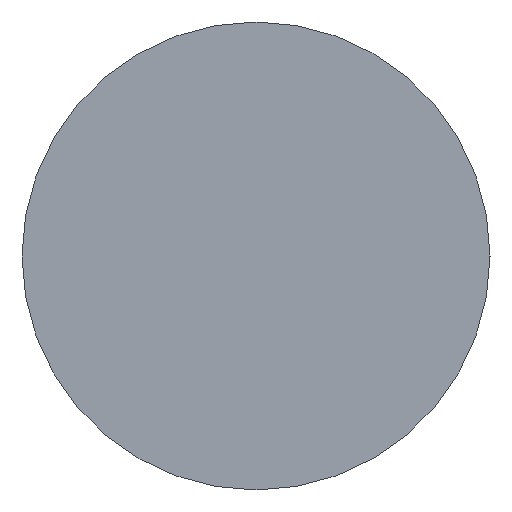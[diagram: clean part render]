
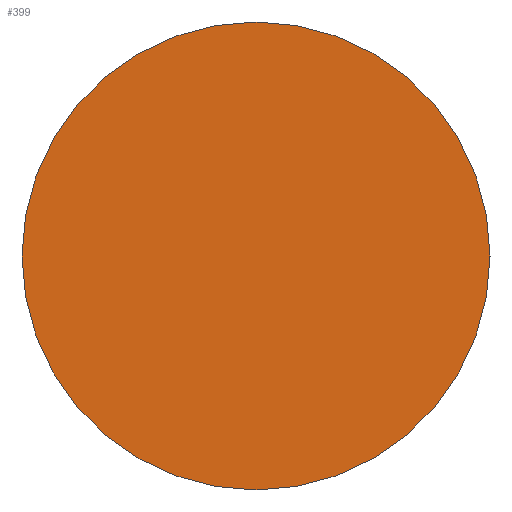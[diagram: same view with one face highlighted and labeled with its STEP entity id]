
A CAD part, left-side view. The second image highlights one B-rep face of the part: STEP entity #399.
In plain terms, the highlighted planar face has unit normal (-1, 0, 0).
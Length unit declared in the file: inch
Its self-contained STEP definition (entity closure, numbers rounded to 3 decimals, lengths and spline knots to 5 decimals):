
#39 = AXIS2_PLACEMENT_3D ( 'NONE', #262, #477, #605 ) ;
#48 = CARTESIAN_POINT ( 'NONE',  ( -6., 0., -0.5 ) ) ;
#105 = CIRCLE ( 'NONE', #39, 0.5 ) ;
#108 = DIRECTION ( 'NONE',  ( 0., 0., 1. ) ) ;
#199 = VERTEX_POINT ( 'NONE', #48 ) ;
#206 = AXIS2_PLACEMENT_3D ( 'NONE', #432, #392, #396 ) ;
#234 = CARTESIAN_POINT ( 'NONE',  ( -6., 0., 0.5 ) ) ;
#242 = FACE_OUTER_BOUND ( 'NONE', #295, .T. ) ;
#245 = CARTESIAN_POINT ( 'NONE',  ( -6., 0., 0. ) ) ;
#262 = CARTESIAN_POINT ( 'NONE',  ( -6., 0., 0. ) ) ;
#295 = EDGE_LOOP ( 'NONE', ( #408, #523 ) ) ;
#392 = DIRECTION ( 'NONE',  ( 1., 0., 0. ) ) ;
#396 = DIRECTION ( 'NONE',  ( 0., 0., -1. ) ) ;
#399 = ADVANCED_FACE ( 'NONE', ( #242 ), #442, .F. ) ;
#408 = ORIENTED_EDGE ( 'NONE', *, *, #601, .T. ) ;
#432 = CARTESIAN_POINT ( 'NONE',  ( -6., 0.5, 0. ) ) ;
#442 = PLANE ( 'NONE',  #206 ) ;
#463 = EDGE_CURVE ( 'NONE', #199, #617, #507, .T. ) ;
#477 = DIRECTION ( 'NONE',  ( -1., 0., 0. ) ) ;
#489 = DIRECTION ( 'NONE',  ( -1., 0., 0. ) ) ;
#507 = CIRCLE ( 'NONE', #598, 0.5 ) ;
#523 = ORIENTED_EDGE ( 'NONE', *, *, #463, .T. ) ;
#598 = AXIS2_PLACEMENT_3D ( 'NONE', #245, #489, #108 ) ;
#601 = EDGE_CURVE ( 'NONE', #617, #199, #105, .T. ) ;
#605 = DIRECTION ( 'NONE',  ( 0., 0., 1. ) ) ;
#617 = VERTEX_POINT ( 'NONE', #234 ) ;
